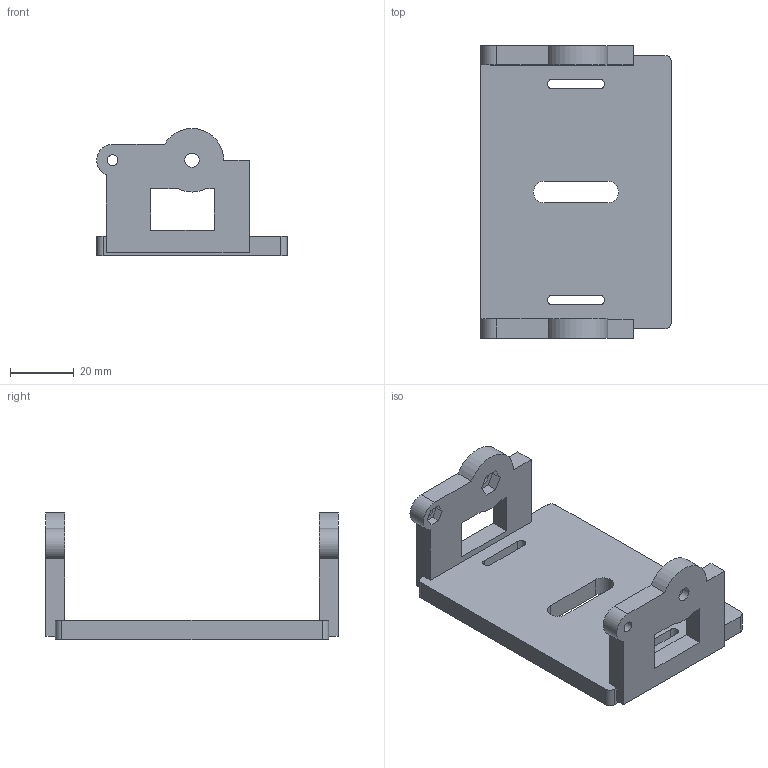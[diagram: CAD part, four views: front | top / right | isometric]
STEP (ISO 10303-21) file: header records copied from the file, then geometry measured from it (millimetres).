
FILE_DESCRIPTION(('Open CASCADE Model'),'2;1');
FILE_NAME('Open CASCADE Shape Model','2026-09-18T15:14:33',('Author'),( 'Open CASCADE'),'Open CASCADE STEP processor 7.9','Open CASCADE 7.9' ,'Unknown');
FILE_SCHEMA(('AUTOMOTIVE_DESIGN { 1 0 10303 214 1 1 1 1 }'));
Length unit declared in the file: millimetre
Products named in the file (1): Open CASCADE STEP translator 7.9 9
Bounding box: 60 x 92 x 40 mm (x, y, z)
Volume: 43103.8 mm3; surface area: 19158.8 mm2
Topology: 1 solids, 1 shells, 84 faces, 234 edges, 156 vertices
Faces by surface type: plane 64, cylinder 20
Full cylindrical faces by diameter (mm): 3.4 x2, 4.5 x2
Entity records: 5724 total; most frequent: CARTESIAN_POINT 1237, DIRECTION 758, LINE 496, VECTOR 496, ORIENTED_EDGE 468, PCURVE 468, DEFINITIONAL_REPRESENTATION 468, EDGE_CURVE 234
